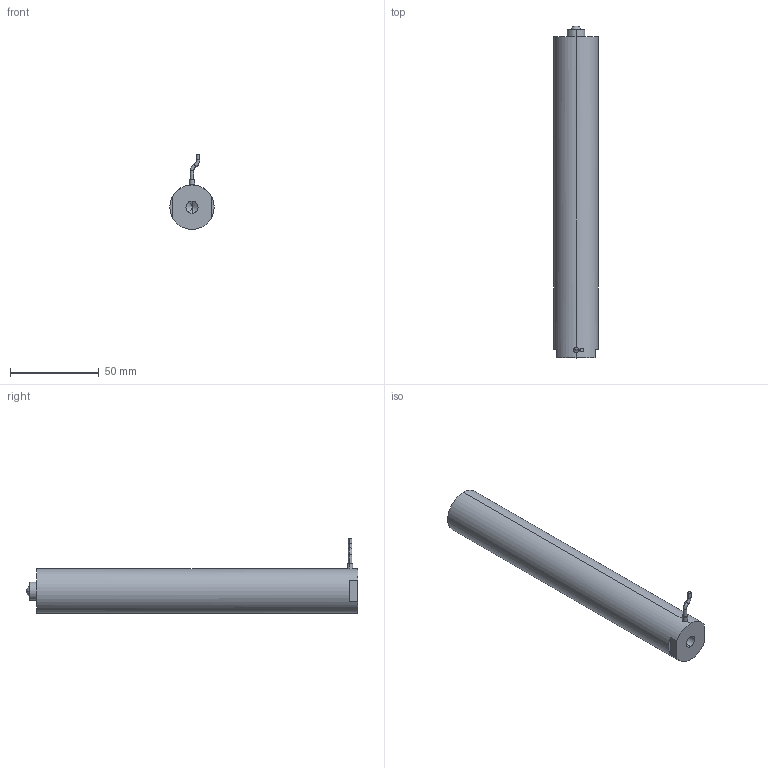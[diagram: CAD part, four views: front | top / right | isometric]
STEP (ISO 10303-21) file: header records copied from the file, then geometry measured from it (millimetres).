
FILE_DESCRIPTION (( 'STEP AP203' ), '1' );
FILE_NAME ('球头式180VS25.STEP', '2021-07-08T07:56:33', ( '微软用户' ), ( '微软公司' ), 'SwSTEP 2.0', 'SolidWorks 2016', '' );
FILE_SCHEMA (( 'CONFIG_CONTROL_DESIGN' ));
Length unit declared in the file: millimetre
Products named in the file (1): ⑩芛宒180VS25
Bounding box: 25 x 187 x 42.06 mm (x, y, z)
Volume: 88725.6 mm3; surface area: 15695.6 mm2
Topology: 1 solids, 1 shells, 949 faces, 2570 edges, 1708 vertices
Faces by surface type: bspline 525, plane 311, cylinder 105, torus 4, sphere 2, cone 2
Entity records: 45331 total; most frequent: CARTESIAN_POINT 26105, ORIENTED_EDGE 5128, EDGE_CURVE 2564, DIRECTION 1956, B_SPLINE_CURVE_WITH_KNOTS 1736, VERTEX_POINT 1706, EDGE_LOOP 1038, FACE_OUTER_BOUND 949
